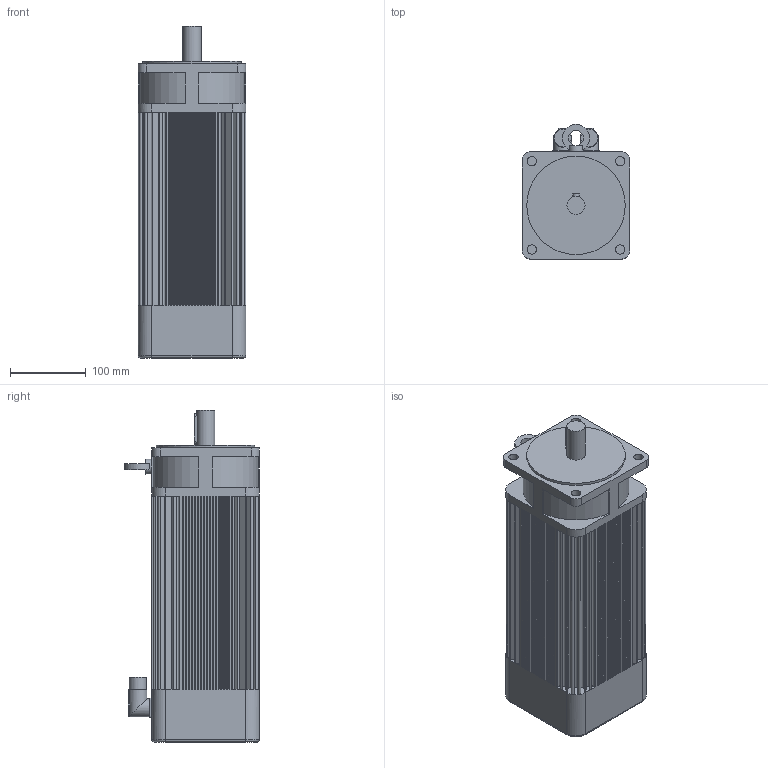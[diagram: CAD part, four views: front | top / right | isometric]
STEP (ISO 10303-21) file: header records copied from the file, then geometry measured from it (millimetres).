
FILE_DESCRIPTION(/* description */ (''),/* implementation_level */ '2;1');
FILE_NAME(/* name */ '\\Lafnas01\disegni\Archivi Lafert\3D\CAD 3D\MODELLI\Assiemi clienti\Serad\Modelli 3D Serad\B71I\Encoder\Enc With Brake\B7128Ixx6BRx2033.ipt.stp',/* time_stamp */ '2015-09-07T10:51:36+02:00',/* author */ ('Pastrello Ylenia'),/* organization */ (''),/* preprocessor_version */ 'ST-DEVELOPER v15.6',/* originating_system */ 'Autodesk Inventor 2015',/* authorisation */ '');
FILE_SCHEMA (('AUTOMOTIVE_DESIGN { 1 0 10303 214 3 1 1 }'));
Length unit declared in the file: millimetre
Products named in the file (1): B7128Ixx6BRx2033
Bounding box: 142 x 178 x 438.5 mm (x, y, z)
Volume: 7274573.6 mm3; surface area: 406052.4 mm2
Topology: 1 solids, 1 shells, 547 faces, 1378 edges, 903 vertices
Faces by surface type: plane 430, cylinder 113, torus 4
Full cylindrical faces by diameter (mm): 12.5 x4, 20 x2, 22.7 x2, 24 x3, 130 x1
Entity records: 16305 total; most frequent: CARTESIAN_POINT 2863, DIRECTION 2786, ORIENTED_EDGE 2724, EDGE_CURVE 1362, LINE 1026, VECTOR 1026, VERTEX_POINT 900, AXIS2_PLACEMENT_3D 880
